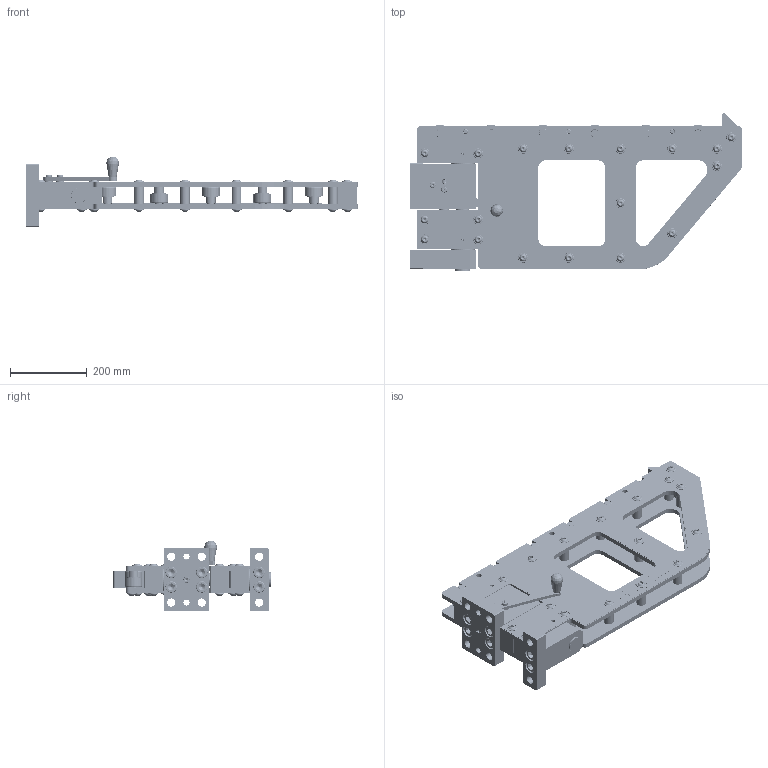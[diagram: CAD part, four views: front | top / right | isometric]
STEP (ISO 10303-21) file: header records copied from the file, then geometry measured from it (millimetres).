
FILE_DESCRIPTION(/* description */ ('CONSOLE PLATE LEFT'),/* implementation_level */ '2;1');
FILE_NAME(/* name */ 'C:\Users\jaccow\AppData\Local\Temp\Cadac\NetworkPub\step\FB692-950.iam.stp',/* time_stamp */ '2017-12-14T13:13:51+01:00',/* author */ ('yue'),/* organization */ (''),/* preprocessor_version */ 'ST-DEVELOPER v16.1',/* originating_system */ 'Autodesk Inventor 2016',/* authorisation */ '');
FILE_SCHEMA (('AUTOMOTIVE_DESIGN { 1 0 10303 214 3 1 1 }'));
Products named in the file (40): FB696-101; FB698-186; CCE1230-028-9A; FB836-690; FB699-690; FB704-044; FB701-104; FB702-104; DQ1513-281; FB703-101; DQ1533-120; CAE1120-1081A; FB863-026; FB864-026; FB833-298; FB694-950; FB646-101; FB835-690; CCA2031-0281A; FB647-070; PP0327-070; CAA1635-0612C; PP0329-155; PP0137-155; CBA1025-0281B; FB649-061; PP0140-110; PP0305-108; PP0379-130; PP0380-108; FB644-950; PP0310-071; FB705-104; CCA819-0285C; FB707-101; FB708-690; CCA2033-0281A; FB706-950; FB709-104; FB692-950
Assembly tree (122 placements, depth 3):
  FB692-950
    FB694-950
      FB696-101  x2
      FB698-186  x11
      CCE1230-028-9A  x39
      FB836-690
      FB699-690  x2
      FB704-044
      FB701-104  x7
      FB702-104  x6
      DQ1513-281  x6
      FB703-101
      DQ1533-120  x3
      CAE1120-1081A  x3
      FB863-026
      FB864-026
      FB833-298
    FB644-950
      FB646-101
      FB835-690
      CCA2031-0281A  x4
      FB647-070
      PP0327-070
      CAA1635-0612C
      PP0329-155  x2
      PP0137-155
      CBA1025-0281B
      FB649-061
      PP0140-110
      PP0305-108  x2
      PP0379-130  x2
      PP0380-108  x2
    PP0310-071  x2
    FB705-104
    CCA819-0285C  x4
    FB706-950
      FB707-101
      FB708-690
      CCA2033-0281A  x2
      PP0329-155
    FB709-104
Bounding box: 868 x 411.67 x 184 mm (x, y, z)
Volume: 9392222.6 mm3; surface area: 2208209.6 mm2
Topology: 145 solids, 145 shells, 4993 faces, 12058 edges, 7838 vertices
Faces by surface type: plane 2697, bspline 1099, cylinder 537, cone 495, torus 164, sphere 1
Full cylindrical faces by diameter (mm): 1.541 x6, 3 x2, 3.4 x6, 6.466 x2, 6.647 x6, 6.648 x1, 8 x6, 8.376 x1, 8.4 x1, 9.42 x2, 10 x9, 10.1 x1, 10.106 x18, 10.5 x5, 12 x42, 12.5 x2, 13 x3, 13.5 x31, 15 x3, 16 x4, 16.1 x3, 17.294 x6, 19.95 x7, 20 x39, 20.1 x1, 21 x4, 21.5 x12, 22.425 x1, 24 x3, 25 x18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
Entity records: 110196 total; most frequent: CARTESIAN_POINT 33230, ORIENTED_EDGE 16578, DIRECTION 11889, EDGE_CURVE 8280, VERTEX_POINT 5641, LINE 5619, VECTOR 5619, EDGE_LOOP 4056
